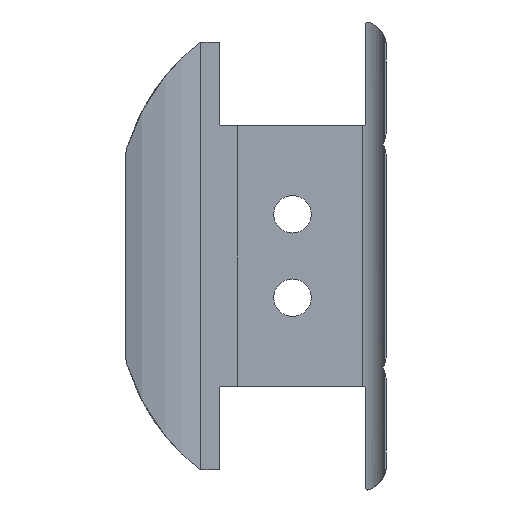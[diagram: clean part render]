
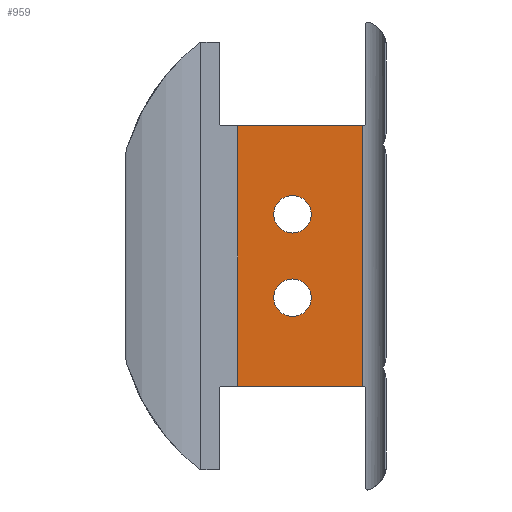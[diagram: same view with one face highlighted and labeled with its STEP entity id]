
A CAD part, front view. The second image highlights one B-rep face of the part: STEP entity #959.
In plain terms, the highlighted planar face has unit normal (0, -1, 0) as drawn and (-1, 0, 0) by its records, which use the part's own axes.
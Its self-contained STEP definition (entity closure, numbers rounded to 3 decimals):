
#7 = CIRCLE ( 'NONE', #162, 1.8 ) ;
#43 = ORIENTED_EDGE ( 'NONE', *, *, #124, .T. ) ;
#111 = CARTESIAN_POINT ( 'NONE',  ( 0., -12.5, -10.25 ) ) ;
#118 = ORIENTED_EDGE ( 'NONE', *, *, #391, .F. ) ;
#119 = VERTEX_POINT ( 'NONE', #1578 ) ;
#124 = EDGE_CURVE ( 'NONE', #119, #584, #807, .T. ) ;
#154 = CARTESIAN_POINT ( 'NONE',  ( 0., 22.5, 1.75 ) ) ;
#162 = AXIS2_PLACEMENT_3D ( 'NONE', #1882, #456, #316 ) ;
#173 = VERTEX_POINT ( 'NONE', #778 ) ;
#176 = AXIS2_PLACEMENT_3D ( 'NONE', #1995, #414, #1839 ) ;
#198 = CARTESIAN_POINT ( 'NONE',  ( 0., 22.5, -10.25 ) ) ;
#316 = DIRECTION ( 'NONE',  ( 0., 0., 1. ) ) ;
#318 = CARTESIAN_POINT ( 'NONE',  ( 0., -12.5, 1.75 ) ) ;
#326 = DIRECTION ( 'NONE',  ( 0., -1., 0. ) ) ;
#327 = EDGE_CURVE ( 'NONE', #1734, #1734, #1815, .T. ) ;
#330 = EDGE_CURVE ( 'NONE', #173, #1304, #1386, .T. ) ;
#360 = AXIS2_PLACEMENT_3D ( 'NONE', #1025, #714, #562 ) ;
#391 = EDGE_CURVE ( 'NONE', #606, #606, #7, .T. ) ;
#414 = DIRECTION ( 'NONE',  ( 1., 0., 0. ) ) ;
#423 = EDGE_LOOP ( 'NONE', ( #1774, #1297, #1220, #43 ) ) ;
#456 = DIRECTION ( 'NONE',  ( -1., 0., 0. ) ) ;
#562 = DIRECTION ( 'NONE',  ( 0., 0., 1. ) ) ;
#580 = LINE ( 'NONE', #1160, #1905 ) ;
#584 = VERTEX_POINT ( 'NONE', #111 ) ;
#606 = VERTEX_POINT ( 'NONE', #1091 ) ;
#714 = DIRECTION ( 'NONE',  ( 1., 0., 0. ) ) ;
#731 = EDGE_LOOP ( 'NONE', ( #1472 ) ) ;
#777 = DIRECTION ( 'NONE',  ( 0., 0., -1. ) ) ;
#778 = CARTESIAN_POINT ( 'NONE',  ( 0., 12.5, 1.75 ) ) ;
#807 = LINE ( 'NONE', #198, #1743 ) ;
#808 = CARTESIAN_POINT ( 'NONE',  ( 0., -12.5, 1.75 ) ) ;
#841 = PLANE ( 'NONE',  #176 ) ;
#858 = FACE_OUTER_BOUND ( 'NONE', #423, .T. ) ;
#959 = ADVANCED_FACE ( 'NONE', ( #1327, #858, #1974 ), #841, .F. ) ;
#994 = EDGE_CURVE ( 'NONE', #173, #119, #580, .T. ) ;
#1013 = VECTOR ( 'NONE', #326, 1000. ) ;
#1025 = CARTESIAN_POINT ( 'NONE',  ( 0., -4., -3.5 ) ) ;
#1091 = CARTESIAN_POINT ( 'NONE',  ( 0., 4., -1.7 ) ) ;
#1160 = CARTESIAN_POINT ( 'NONE',  ( 0., 12.5, 1.75 ) ) ;
#1220 = ORIENTED_EDGE ( 'NONE', *, *, #994, .T. ) ;
#1297 = ORIENTED_EDGE ( 'NONE', *, *, #330, .F. ) ;
#1304 = VERTEX_POINT ( 'NONE', #808 ) ;
#1327 = FACE_BOUND ( 'NONE', #1733, .T. ) ;
#1386 = LINE ( 'NONE', #154, #1013 ) ;
#1429 = VECTOR ( 'NONE', #777, 1000. ) ;
#1472 = ORIENTED_EDGE ( 'NONE', *, *, #327, .T. ) ;
#1548 = CARTESIAN_POINT ( 'NONE',  ( 0., -4., -1.7 ) ) ;
#1578 = CARTESIAN_POINT ( 'NONE',  ( 0., 12.5, -10.25 ) ) ;
#1634 = DIRECTION ( 'NONE',  ( 0., 0., -1. ) ) ;
#1733 = EDGE_LOOP ( 'NONE', ( #118 ) ) ;
#1734 = VERTEX_POINT ( 'NONE', #1548 ) ;
#1743 = VECTOR ( 'NONE', #1896, 1000. ) ;
#1774 = ORIENTED_EDGE ( 'NONE', *, *, #1924, .F. ) ;
#1815 = CIRCLE ( 'NONE', #360, 1.8 ) ;
#1839 = DIRECTION ( 'NONE',  ( 0., 0., -1. ) ) ;
#1855 = LINE ( 'NONE', #318, #1429 ) ;
#1882 = CARTESIAN_POINT ( 'NONE',  ( 0., 4., -3.5 ) ) ;
#1896 = DIRECTION ( 'NONE',  ( 0., -1., 0. ) ) ;
#1905 = VECTOR ( 'NONE', #1634, 1000. ) ;
#1924 = EDGE_CURVE ( 'NONE', #1304, #584, #1855, .T. ) ;
#1974 = FACE_BOUND ( 'NONE', #731, .T. ) ;
#1995 = CARTESIAN_POINT ( 'NONE',  ( 0., 22.5, 1.75 ) ) ;
